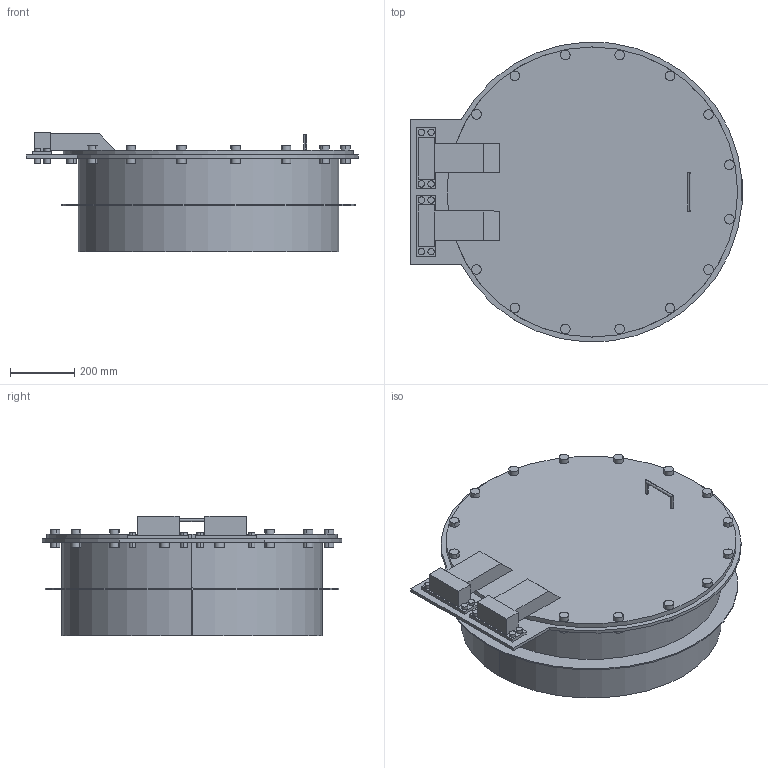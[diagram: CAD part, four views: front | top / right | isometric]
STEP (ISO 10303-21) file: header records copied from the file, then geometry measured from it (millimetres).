
FILE_DESCRIPTION((''),'2;1');
FILE_NAME('51544707','2020-10-22T09:09:21',('ka'),('HUBER SE'),'CREO PARAMETRIC BY PTC INC, 2019224','CREO PARAMETRIC BY PTC INC, 2019224','');
FILE_SCHEMA(('AUTOMOTIVE_DESIGN { 1 0 10303 214 1 1 1 1 }'));
Length unit declared in the file: millimetre
Products named in the file (1): 51544707
Bounding box: 1029.82 x 930.04 x 370 mm (x, y, z)
Volume: 18426767.1 mm3; surface area: 3480569.6 mm2
Topology: 1 solids, 1 shells, 195 faces, 419 edges, 280 vertices
Faces by surface type: cylinder 109, plane 86
Entity records: 7605 total; most frequent: CARTESIAN_POINT 1123, DIRECTION 1102, ORIENTED_EDGE 832, AXIS2_PLACEMENT_3D 438, EDGE_CURVE 416, VERTEX_POINT 276, EDGE_LOOP 254, VECTOR 223
